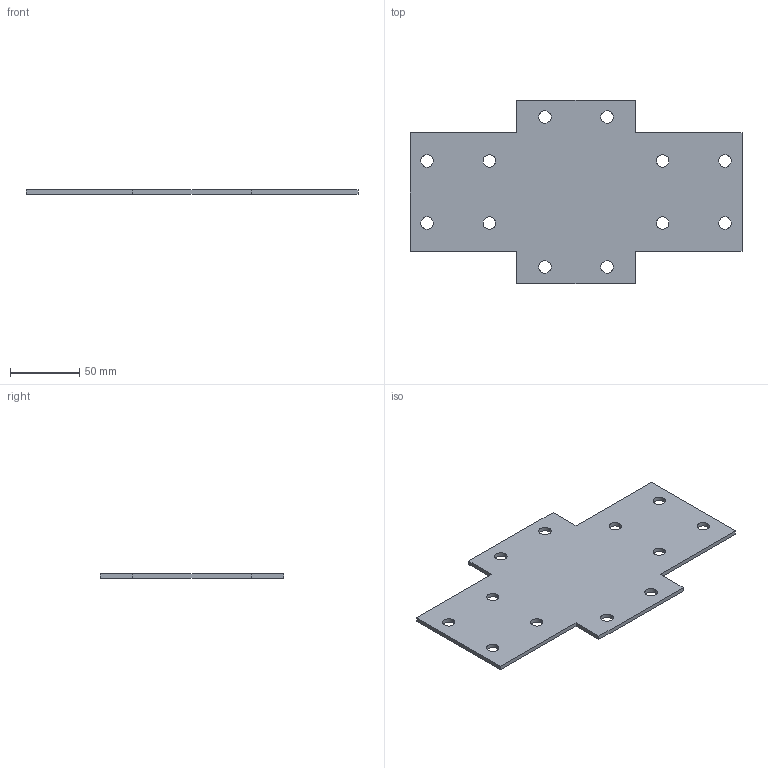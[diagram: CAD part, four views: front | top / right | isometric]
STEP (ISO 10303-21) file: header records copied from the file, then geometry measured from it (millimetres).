
FILE_DESCRIPTION (( 'STEP AP203' ), '1' );
FILE_NAME ('2100.step', '2019-02-19T08:47:17', ( '' ), ( '' ), 'SwSTEP 2.0', 'SolidWorks 2016', '' );
FILE_SCHEMA (( 'CONFIG_CONTROL_DESIGN' ));
Length unit declared in the file: millimetre
Products named in the file (1): 2100
Bounding box: 240 x 133 x 3 mm (x, y, z)
Volume: 71755.8 mm3; surface area: 51093.1 mm2
Topology: 1 solids, 1 shells, 38 faces, 108 edges, 72 vertices
Faces by surface type: cylinder 24, plane 14
Entity records: 1385 total; most frequent: DIRECTION 234, CARTESIAN_POINT 219, ORIENTED_EDGE 216, EDGE_CURVE 108, AXIS2_PLACEMENT_3D 87, VERTEX_POINT 72, EDGE_LOOP 62, LINE 60
